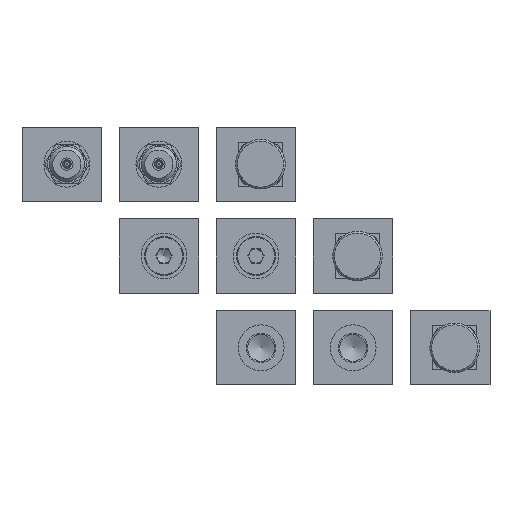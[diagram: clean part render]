
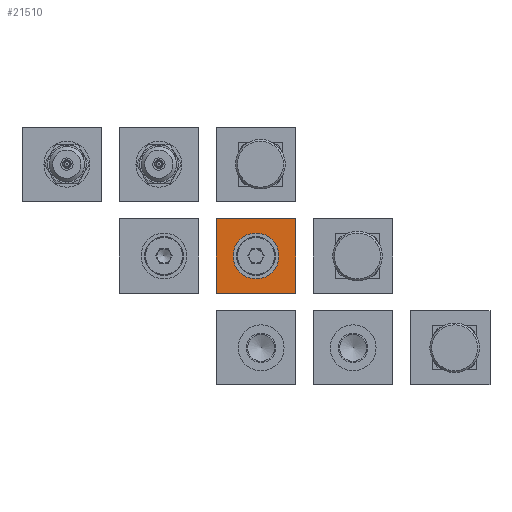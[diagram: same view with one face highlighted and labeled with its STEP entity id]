
A CAD part, left-side view. The second image highlights one B-rep face of the part: STEP entity #21510.
In plain terms, the highlighted planar face has unit normal (-1, 0, 0).
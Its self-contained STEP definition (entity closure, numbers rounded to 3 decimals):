
#21510=ADVANCED_FACE('', (#21520,#21530), #21540, .T.);
#106380=AXIS2_PLACEMENT_3D('Ax2Pl3d', #106390, #106400, #106410);
#106420=AXIS2_PLACEMENT_3D('Ax2Pl3d', #106430, #106440, #106450);
#106390=CARTESIAN_POINT('HicPkt', (226.4,132.5,73.));
#247610=CARTESIAN_POINT('', (226.4,145.5,73.));
#106430=CARTESIAN_POINT('HicPkt', (226.4,110.,52.));
#247620=CARTESIAN_POINT('', (226.4,110.,94.));
#247630=CARTESIAN_POINT('', (226.4,110.,52.));
#247640=CARTESIAN_POINT('', (226.4,110.,94.));
#247650=CARTESIAN_POINT('', (226.4,110.,94.));
#247660=CARTESIAN_POINT('', (226.4,155.,94.));
#247670=CARTESIAN_POINT('', (226.4,155.,94.));
#247680=CARTESIAN_POINT('', (226.4,155.,52.));
#247690=CARTESIAN_POINT('', (226.4,110.,52.));
#272990=CIRCLE('Circle', #106380, 13.);
#106400=DIRECTION('Axis', (-1.,0.,
0.));
#106410=DIRECTION('RefDirection', (0.,
0.,-1.));
#106440=DIRECTION('Axis', (-1.,0.,
0.));
#106450=DIRECTION('RefDirection', (0.,
0.,-1.));
#292390=DIRECTION('', (0.,0.,1.));
#292400=DIRECTION('', (0.,-1.,0.));
#292410=DIRECTION('', (0.,0.,1.));
#292420=DIRECTION('', (0.,-1.,0.));
#317110=EDGE_CURVE('', #317120, #317120, #272990, .T.);
#317130=EDGE_CURVE('', #317140, #317150, #317160, .T.);
#317170=EDGE_CURVE('', #317180, #317150, #317190, .T.);
#317200=EDGE_CURVE('', #317210, #317180, #317220, .T.);
#317230=EDGE_CURVE('', #317210, #317140, #317240, .T.);
#379830=EDGE_LOOP('Edge_loop', (#379840,#379850,#379860,#379870));
#379880=EDGE_LOOP('Edge_loop', (#379890));
#21530=FACE_BOUND('', #379880, .T.);
#21520=FACE_OUTER_BOUND('Face_outer_bound', #379830, .T.);
#317160=LINE('Line', #247620, #439900);
#317190=LINE('Line', #247650, #439910);
#317220=LINE('Line', #247670, #439920);
#317240=LINE('Line', #247690, #439930);
#379840=ORIENTED_EDGE('', *, *, #317130, .T.);
#379850=ORIENTED_EDGE('', *, *, #317170, .F.);
#379860=ORIENTED_EDGE('', *, *, #317200, .F.);
#379870=ORIENTED_EDGE('', *, *, #317230, .T.);
#379890=ORIENTED_EDGE('', *, *, #317110, .F.);
#21540=PLANE('Plane', #106420);
#439900=VECTOR('', #292390, 42.);
#439910=VECTOR('', #292400, 45.);
#439920=VECTOR('', #292410, 42.);
#439930=VECTOR('', #292420, 45.);
#317120=VERTEX_POINT('', #247610);
#317140=VERTEX_POINT('', #247630);
#317150=VERTEX_POINT('', #247640);
#317180=VERTEX_POINT('', #247660);
#317210=VERTEX_POINT('', #247680);
